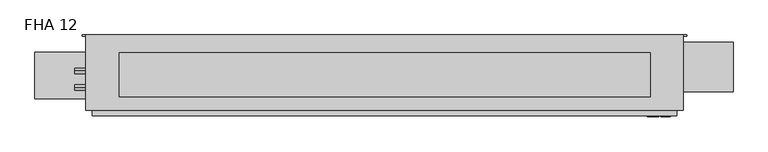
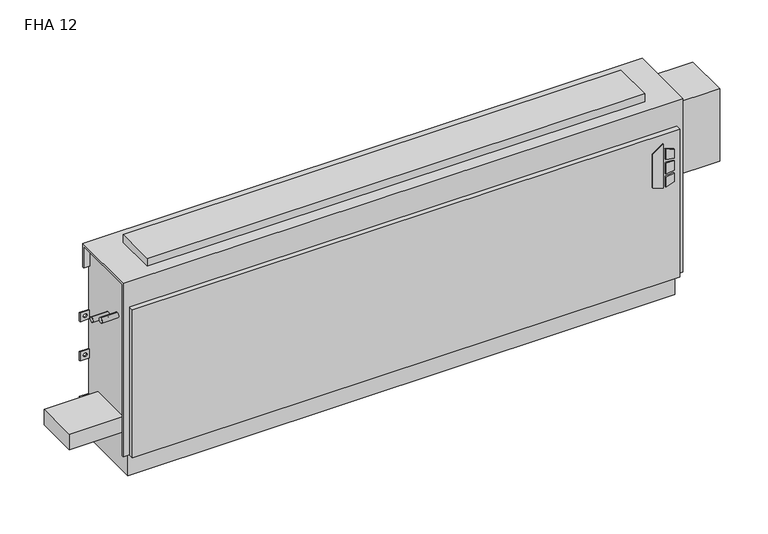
"""IFC4 building model written with IfcOpenShell, lengths in millimetres: proxy geometry, Vertical_Fan_Coil_Unit_-_FHA_-_IEC_-_2-Pipe_TS-FR_LH_2022 : FHA 12."""

from ifc_helpers import new_model, si_unit, point, frame, frame_2d, origin, place, context, project, spatial, polyline, circle_curve, trimmed, segment, composite_curve, outline, extrude, source, transform, mapped, element, save
from ifc_brep_helpers import plane_surface, revolved_surface, advanced_brep


def fha_12_0b8164c2(model_context):
    return source(origin(), model_context, "Body", "SolidModel", [
        extrude(outline(polyline([(391.6086829, 906.5368862), (381.6606126, 938.7102728), (523.831537, 938.7102728), (500.8095309, 906.5368862), (391.6086829, 906.5368862)])), frame((0.0, 9.525, 0.0), z_axis=(0.0, 1.0, 0.0), x_axis=(0.0, 0.0, 1.0)), (0.0, 0.0, 1.0), 3.175),
        extrude(outline(polyline([(470.6079683, 945.4686058), (467.4055757, 971.55), (496.6344168, 971.55), (504.6988318, 945.4686058), (470.6079683, 945.4686058)])), frame((0.0, 9.525, 0.0), z_axis=(0.0, 1.0, 0.0), x_axis=(0.0, 0.0, 1.0)), (0.0, 0.0, 1.0), 3.175),
        extrude(outline(polyline([(418.7444414, 971.55), (415.0789404, 945.4686058), (381.6606126, 945.4686058), (390.2948498, 971.55), (418.7444414, 971.55)])), frame((0.0, 9.525, 0.0), z_axis=(0.0, 1.0, 0.0), x_axis=(0.0, 0.0, 1.0)), (0.0, 0.0, 1.0), 3.175),
        extrude(outline(polyline([(458.0596028, 971.55), (460.3414292, 945.4686058), (424.4038806, 945.4686058), (427.1451456, 971.55), (458.0596028, 971.55)])), frame((0.0, 9.525, 0.0), z_axis=(0.0, 1.0, 0.0), x_axis=(0.0, 0.0, 1.0)), (0.0, 0.0, 1.0), 3.175),
        extrude(outline(composite_curve([segment(trimmed(circle_curve(frame_2d((-749.3, 128.5875)), 9.525), [point((-758.825, 128.5875))], [point((-739.775, 128.5875))], False, "CARTESIAN"), True, "CONTINUOUS"), segment(trimmed(circle_curve(frame_2d((-749.3, 128.5875)), 9.525), [point((-739.775, 128.5875))], [point((-758.825, 128.5875))], False, "CARTESIAN"), True, "CONTINUOUS")], self_intersect=False)), frame((0.0, 0.0, 101.6), z_axis=(0.0, 0.0, 1.0), x_axis=(1.0, 0.0, 0.0)), (0.0, 0.0, 1.0), 25.4),
        extrude(outline(polyline([(-850.9, 61.9125), (-850.9, 195.2625), (-685.8, 195.2625), (-685.8, 61.9125), (-850.9, 61.9125)])), frame((0.0, 0.0, 127.0), z_axis=(0.0, 0.0, 1.0), x_axis=(1.0, 0.0, 0.0)), (0.0, 0.0, 1.0), 50.8),
        extrude(outline(polyline([(914.4, 193.675), (914.4, 66.675), (-609.6, 66.675), (-609.6, 193.675), (914.4, 193.675)])), frame((0.0, 0.0, 635.0), z_axis=(0.0, 0.0, 1.0), x_axis=(1.0, 0.0, 0.0)), (0.0, 0.0, 1.0), 25.4),
        extrude(outline(composite_curve([segment(trimmed(circle_curve(frame_2d((93.1926, 488.0102)), 7.9375), [point((93.1926, 495.9477))], [point((93.1926, 480.0727))], False, "CARTESIAN"), True, "CONTINUOUS"), segment(trimmed(circle_curve(frame_2d((93.1926, 488.0102)), 7.9375), [point((93.1926, 480.0727))], [point((93.1926, 495.9477))], False, "CARTESIAN"), True, "CONTINUOUS")], self_intersect=False)), frame((-736.6, 0.0, 0.0), z_axis=(1.0, 0.0, 0.0), x_axis=(0.0, 1.0, 0.0)), (0.0, 0.0, 1.0), 50.8),
        extrude(outline(composite_curve([segment(trimmed(circle_curve(frame_2d((141.3002, 461.3402)), 7.9375), [point((141.3002, 469.2777))], [point((141.3002, 453.4027))], False, "CARTESIAN"), True, "CONTINUOUS"), segment(trimmed(circle_curve(frame_2d((141.3002, 461.3402)), 7.9375), [point((141.3002, 453.4027))], [point((141.3002, 469.2777))], False, "CARTESIAN"), True, "CONTINUOUS")], self_intersect=False)), frame((-736.6, 0.0, 0.0), z_axis=(1.0, 0.0, 0.0), x_axis=(0.0, 1.0, 0.0)), (0.0, 0.0, 1.0), 50.8),
        extrude(outline(polyline([(1152.525, 223.266), (1152.525, 81.534), (990.6, 81.534), (990.6, 223.266), (1152.525, 223.266)])), frame((0.0, 0.0, 349.25), z_axis=(0.0, 0.0, 1.0), x_axis=(1.0, 0.0, 0.0)), (0.0, 0.0, 1.0), 234.95),
        advanced_brep(
        [(1009.65, 244.475, 635.0), (-704.85, 244.475, 635.0), (-704.85, 28.575, 635.0), (1009.65, 28.575, 635.0), (-685.8, 244.475, 0.0), (990.6, 244.475, 0.0), (990.6, 38.1, 0.0), (-685.8, 38.1, 0.0), (1009.65, 244.475, 558.8), (990.6, 244.475, 558.8), (990.6, 244.475, 414.3375), (1019.175, 244.475, 414.3375), (1019.175, 244.475, 385.7625), (990.6, 244.475, 385.7625), (990.6, 244.475, 287.3375), (1019.175, 244.475, 287.3375), (1019.175, 244.475, 258.7625), (990.6, 244.475, 258.7625), (990.6, 244.475, 141.2875), (1019.175, 244.475, 141.2875), (1019.175, 244.475, 112.7125), (990.6, 244.475, 112.7125), (-685.8, 244.475, 112.7125), (-714.375, 244.475, 112.7125), (-714.375, 244.475, 141.2875), (-685.8, 244.475, 141.2875), (-685.8, 244.475, 258.7625), (-714.375, 244.475, 258.7625), (-714.375, 244.475, 287.3375), (-685.8, 244.475, 287.3375), (-685.8, 244.475, 385.7625), (-714.375, 244.475, 385.7625), (-714.375, 244.475, 414.3375), (-685.8, 244.475, 414.3375), (-685.8, 244.475, 558.8), (-704.85, 244.475, 558.8), (1008.8626, 244.475, 127.0), (997.7374, 244.475, 127.0), (-692.9374, 244.475, 127.0), (-704.0626, 244.475, 127.0), (1008.8626, 244.475, 273.05), (997.7374, 244.475, 273.05), (-692.9374, 244.475, 273.05), (-704.0626, 244.475, 273.05), (1008.8626, 244.475, 400.05), (997.7374, 244.475, 400.05), (-692.9374, 244.475, 400.05), (-704.0626, 244.475, 400.05), (-704.85, 238.125, 558.8), (-704.85, 238.125, 628.65), (-704.85, 34.925, 628.65), (-704.85, 34.925, 73.025), (-704.85, 28.575, 73.025), (990.6, 12.7, 552.45), (-685.8, 12.7, 552.45), (-685.8, 12.7, 73.025), (990.6, 12.7, 73.025), (1009.65, 28.575, 73.025), (1009.65, 34.925, 73.025), (1009.65, 34.925, 628.65), (1009.65, 238.125, 628.65), (1009.65, 238.125, 558.8), (-685.8, 28.575, 73.025), (-685.8, 28.575, 552.45), (990.6, 28.575, 552.45), (990.6, 28.575, 73.025), (-685.8, 34.925, 73.025), (-685.8, 38.1, 73.025), (990.6, 38.1, 73.025), (990.6, 34.925, 73.025), (990.6, 241.3, 112.7125), (990.6, 241.3, 141.2875), (990.6, 241.3, 258.7625), (990.6, 241.3, 287.3375), (990.6, 241.3, 385.7625), (990.6, 241.3, 414.3375), (990.6, 238.125, 558.8), (990.6, 238.125, 628.65), (990.6, 34.925, 628.65), (-685.8, 34.925, 628.65), (-685.8, 238.125, 628.65), (-685.8, 238.125, 558.8), (-685.8, 241.3, 414.3375), (-685.8, 241.3, 385.7625), (-685.8, 241.3, 287.3375), (-685.8, 241.3, 258.7625), (-685.8, 241.3, 141.2875), (-685.8, 241.3, 112.7125), (1019.175, 241.3, 112.7125), (1019.175, 241.3, 141.2875), (997.7374, 241.3, 127.0), (1008.8626, 241.3, 127.0), (1019.175, 241.3, 258.7625), (1019.175, 241.3, 287.3375), (997.7374, 241.3, 273.05), (1008.8626, 241.3, 273.05), (1019.175, 241.3, 385.7625), (1019.175, 241.3, 414.3375), (997.7374, 241.3, 400.05), (1008.8626, 241.3, 400.05), (-714.375, 241.3, 141.2875), (-714.375, 241.3, 112.7125), (-704.0626, 241.3, 127.0), (-692.9374, 241.3, 127.0), (-714.375, 241.3, 287.3375), (-714.375, 241.3, 258.7625), (-704.0626, 241.3, 273.05), (-692.9374, 241.3, 273.05), (-714.375, 241.3, 414.3375), (-714.375, 241.3, 385.7625), (-704.0626, 241.3, 400.05), (-692.9374, 241.3, 400.05)],
        [
            (0, 1),
            (1, 2),
            (2, 3),
            (3, 0),
            (4, 5),
            (5, 6),
            (6, 7),
            (7, 4),
            (0, 8),
            (8, 9),
            (9, 10),
            (10, 11),
            (11, 12),
            (12, 13),
            (13, 14),
            (14, 15),
            (15, 16),
            (16, 17),
            (17, 18),
            (18, 19),
            (19, 20),
            (20, 21),
            (21, 5),
            (4, 22),
            (22, 23),
            (23, 24),
            (24, 25),
            (25, 26),
            (26, 27),
            (27, 28),
            (28, 29),
            (29, 30),
            (30, 31),
            (31, 32),
            (32, 33),
            (33, 34),
            (34, 35),
            (35, 1),
            (36, 37, circle_curve(frame((1003.3, 244.475, 127.0), z_axis=(0.0, -1.0, 0.0), x_axis=(-1.0, 0.0, 0.0)), 5.5626)),
            (37, 36, circle_curve(frame((1003.3, 244.475, 127.0), z_axis=(0.0, -1.0, 0.0), x_axis=(-1.0, 0.0, 0.0)), 5.5626)),
            (38, 39, circle_curve(frame((-698.5, 244.475, 127.0), z_axis=(0.0, -1.0, 0.0), x_axis=(-1.0, 0.0, 0.0)), 5.5626)),
            (39, 38, circle_curve(frame((-698.5, 244.475, 127.0), z_axis=(0.0, -1.0, 0.0), x_axis=(-1.0, 0.0, 0.0)), 5.5626)),
            (40, 41, circle_curve(frame((1003.3, 244.475, 273.05), z_axis=(0.0, -1.0, 0.0), x_axis=(-1.0, 0.0, 0.0)), 5.5626)),
            (41, 40, circle_curve(frame((1003.3, 244.475, 273.05), z_axis=(0.0, -1.0, 0.0), x_axis=(-1.0, 0.0, 0.0)), 5.5626)),
            (42, 43, circle_curve(frame((-698.5, 244.475, 273.05), z_axis=(0.0, -1.0, 0.0), x_axis=(-1.0, 0.0, 0.0)), 5.5626)),
            (43, 42, circle_curve(frame((-698.5, 244.475, 273.05), z_axis=(0.0, -1.0, 0.0), x_axis=(-1.0, 0.0, 0.0)), 5.5626)),
            (44, 45, circle_curve(frame((1003.3, 244.475, 400.05), z_axis=(0.0, -1.0, 0.0), x_axis=(-1.0, 0.0, 0.0)), 5.5626)),
            (45, 44, circle_curve(frame((1003.3, 244.475, 400.05), z_axis=(0.0, -1.0, 0.0), x_axis=(-1.0, 0.0, 0.0)), 5.5626)),
            (46, 47, circle_curve(frame((-698.5, 244.475, 400.05), z_axis=(0.0, -1.0, 0.0), x_axis=(-1.0, 0.0, 0.0)), 5.5626)),
            (47, 46, circle_curve(frame((-698.5, 244.475, 400.05), z_axis=(0.0, -1.0, 0.0), x_axis=(-1.0, 0.0, 0.0)), 5.5626)),
            (35, 48),
            (48, 49),
            (49, 50),
            (50, 51),
            (51, 52),
            (52, 2),
            (53, 54),
            (54, 55),
            (55, 56),
            (56, 53),
            (3, 57),
            (57, 58),
            (58, 59),
            (59, 60),
            (60, 61),
            (61, 8),
            (52, 62),
            (62, 63),
            (63, 64),
            (64, 65),
            (65, 57),
            (53, 64),
            (63, 54),
            (55, 62),
            (51, 66),
            (66, 67),
            (67, 68),
            (68, 69),
            (69, 58),
            (65, 56),
            (6, 68),
            (67, 7),
            (21, 70),
            (70, 71),
            (71, 18),
            (17, 72),
            (72, 73),
            (73, 14),
            (13, 74),
            (74, 75),
            (75, 10),
            (9, 76),
            (76, 77),
            (77, 78),
            (78, 69),
            (66, 79),
            (79, 80),
            (80, 81),
            (81, 34),
            (33, 82),
            (82, 83),
            (83, 30),
            (29, 84),
            (84, 85),
            (85, 26),
            (25, 86),
            (86, 87),
            (87, 22),
            (76, 61),
            (60, 77),
            (78, 59),
            (50, 79),
            (81, 48),
            (80, 49),
            (70, 88),
            (88, 89),
            (89, 71),
            (90, 91, circle_curve(frame((1003.3, 241.3, 127.0), z_axis=(0.0, 1.0, 0.0), x_axis=(-1.0, 0.0, 0.0)), 5.5626)),
            (91, 90, circle_curve(frame((1003.3, 241.3, 127.0), z_axis=(0.0, 1.0, 0.0), x_axis=(-1.0, 0.0, 0.0)), 5.5626)),
            (92, 93),
            (93, 73),
            (72, 92),
            (94, 95, circle_curve(frame((1003.3, 241.3, 273.05), z_axis=(0.0, 1.0, 0.0), x_axis=(-1.0, 0.0, 0.0)), 5.5626)),
            (95, 94, circle_curve(frame((1003.3, 241.3, 273.05), z_axis=(0.0, 1.0, 0.0), x_axis=(-1.0, 0.0, 0.0)), 5.5626)),
            (96, 97),
            (97, 75),
            (74, 96),
            (98, 99, circle_curve(frame((1003.3, 241.3, 400.05), z_axis=(0.0, 1.0, 0.0), x_axis=(-1.0, 0.0, 0.0)), 5.5626)),
            (99, 98, circle_curve(frame((1003.3, 241.3, 400.05), z_axis=(0.0, 1.0, 0.0), x_axis=(-1.0, 0.0, 0.0)), 5.5626)),
            (100, 101),
            (101, 87),
            (86, 100),
            (102, 103, circle_curve(frame((-698.5, 241.3, 127.0), z_axis=(0.0, 1.0, 0.0), x_axis=(-1.0, 0.0, 0.0)), 5.5626)),
            (103, 102, circle_curve(frame((-698.5, 241.3, 127.0), z_axis=(0.0, 1.0, 0.0), x_axis=(-1.0, 0.0, 0.0)), 5.5626)),
            (84, 104),
            (104, 105),
            (105, 85),
            (106, 107, circle_curve(frame((-698.5, 241.3, 273.05), z_axis=(0.0, 1.0, 0.0), x_axis=(-1.0, 0.0, 0.0)), 5.5626)),
            (107, 106, circle_curve(frame((-698.5, 241.3, 273.05), z_axis=(0.0, 1.0, 0.0), x_axis=(-1.0, 0.0, 0.0)), 5.5626)),
            (108, 109),
            (109, 83),
            (82, 108),
            (110, 111, circle_curve(frame((-698.5, 241.3, 400.05), z_axis=(0.0, 1.0, 0.0), x_axis=(-1.0, 0.0, 0.0)), 5.5626)),
            (111, 110, circle_curve(frame((-698.5, 241.3, 400.05), z_axis=(0.0, 1.0, 0.0), x_axis=(-1.0, 0.0, 0.0)), 5.5626)),
            (89, 19),
            (88, 20),
            (16, 92),
            (93, 15),
            (12, 96),
            (97, 11),
            (24, 100),
            (101, 23),
            (105, 27),
            (104, 28),
            (32, 108),
            (109, 31),
            (90, 37),
            (36, 91),
            (102, 39),
            (38, 103),
            (94, 41),
            (40, 95),
            (106, 43),
            (42, 107),
            (98, 45),
            (44, 99),
            (110, 47),
            (46, 111),
        ],
        [
            plane_surface(frame((-704.85, 244.475, 635.0), z_axis=(0.0, 0.0, 1.0), x_axis=(-1.0, 0.0, 0.0))),
            plane_surface(frame((-704.85, 244.475, 0.0), z_axis=(0.0, 0.0, -1.0), x_axis=(1.0, 0.0, 0.0))),
            plane_surface(frame((1009.65, 244.475, 635.0), z_axis=(0.0, 1.0, 0.0), x_axis=(0.0, 0.0, -1.0))),
            plane_surface(frame((-704.85, 244.475, 635.0), z_axis=(-1.0, 0.0, 0.0), x_axis=(0.0, 0.0, -1.0))),
            plane_surface(frame((-704.85, 12.7, 635.0), z_axis=(0.0, -1.0, 0.0), x_axis=(0.0, 0.0, -1.0))),
            plane_surface(frame((1009.65, 12.7, 635.0), z_axis=(1.0, 0.0, 0.0), x_axis=(0.0, 0.0, -1.0))),
            plane_surface(frame((-1263.65, 28.575, 635.0), z_axis=(0.0, -1.0, 0.0), x_axis=(1.0, 0.0, 0.0))),
            plane_surface(frame((-1263.65, 28.575, 552.45), z_axis=(0.0, 0.0, 1.0), x_axis=(1.0, 0.0, 0.0))),
            plane_surface(frame((-704.85, 12.7, 73.025), z_axis=(0.0, 0.0, -1.0), x_axis=(1.0, 0.0, 0.0))),
            plane_surface(frame((-704.85, 38.1, 73.025), z_axis=(0.0, -1.0, 0.0), x_axis=(1.0, 0.0, 0.0))),
            plane_surface(frame((990.6, 28.575, 73.025), z_axis=(1.0, 0.0, 0.0), x_axis=(0.0, -1.0, 0.0))),
            plane_surface(frame((-685.8, 28.575, 552.45), z_axis=(-1.0, 0.0, 0.0), x_axis=(0.0, -1.0, 0.0))),
            plane_surface(frame((990.6, 244.475, 0.0), z_axis=(1.0, 0.0, 0.0), x_axis=(0.0, -1.0, 0.0))),
            plane_surface(frame((-685.8, 244.475, 73.025), z_axis=(-1.0, 0.0, 0.0), x_axis=(0.0, -1.0, 0.0))),
            plane_surface(frame((990.6, 238.125, 628.65), z_axis=(0.0, -1.0, 0.0), x_axis=(1.0, 0.0, 0.0))),
            plane_surface(frame((990.6, 238.125, 558.8), z_axis=(0.0, 0.0, -1.0), x_axis=(1.0, 0.0, 0.0))),
            plane_surface(frame((990.6, 34.925, 73.025), z_axis=(0.0, 1.0, 0.0), x_axis=(1.0, 0.0, 0.0))),
            plane_surface(frame((990.6, 34.925, 628.65), z_axis=(0.0, 0.0, -1.0), x_axis=(1.0, 0.0, 0.0))),
            plane_surface(frame((-685.8, 34.925, 628.65), z_axis=(0.0, 1.0, 0.0), x_axis=(-1.0, 0.0, 0.0))),
            plane_surface(frame((-685.8, 244.475, 558.8), z_axis=(0.0, 0.0, -1.0), x_axis=(-1.0, 0.0, 0.0))),
            plane_surface(frame((-685.8, 238.125, 558.8), z_axis=(0.0, -1.0, 0.0), x_axis=(-1.0, 0.0, 0.0))),
            plane_surface(frame((-685.8, 238.125, 628.65), z_axis=(0.0, 0.0, -1.0), x_axis=(-1.0, 0.0, 0.0))),
            plane_surface(frame((1019.175, 241.3, 141.2875), z_axis=(0.0, -1.0, 0.0), x_axis=(-1.0, 0.0, 0.0))),
            plane_surface(frame((990.6, 244.475, 141.2875), z_axis=(0.0, 0.0, 1.0), x_axis=(0.0, -1.0, 0.0))),
            plane_surface(frame((1019.175, 244.475, 141.2875), z_axis=(1.0, 0.0, 0.0), x_axis=(0.0, -1.0, 0.0))),
            plane_surface(frame((1019.175, 244.475, 112.7125), z_axis=(0.0, 0.0, -1.0), x_axis=(0.0, -1.0, 0.0))),
            plane_surface(frame((1019.175, 244.475, 258.7625), z_axis=(0.0, 0.0, -1.0), x_axis=(0.0, -1.0, 0.0))),
            plane_surface(frame((990.6, 244.475, 287.3375), z_axis=(0.0, 0.0, 1.0), x_axis=(0.0, -1.0, 0.0))),
            plane_surface(frame((1019.175, 244.475, 287.3375), z_axis=(1.0, 0.0, 0.0), x_axis=(0.0, -1.0, 0.0))),
            plane_surface(frame((1019.175, 244.475, 385.7625), z_axis=(0.0, 0.0, -1.0), x_axis=(0.0, -1.0, 0.0))),
            plane_surface(frame((990.6, 244.475, 414.3375), z_axis=(0.0, 0.0, 1.0), x_axis=(0.0, -1.0, 0.0))),
            plane_surface(frame((1019.175, 244.475, 414.3375), z_axis=(1.0, 0.0, 0.0), x_axis=(0.0, -1.0, 0.0))),
            plane_surface(frame((-714.375, 244.475, 141.2875), z_axis=(0.0, 0.0, 1.0), x_axis=(0.0, -1.0, 0.0))),
            plane_surface(frame((-685.8, 244.475, 112.7125), z_axis=(0.0, 0.0, -1.0), x_axis=(0.0, -1.0, 0.0))),
            plane_surface(frame((-714.375, 244.475, 112.7125), z_axis=(-1.0, 0.0, 0.0), x_axis=(0.0, -1.0, 0.0))),
            plane_surface(frame((-685.8, 244.475, 258.7625), z_axis=(0.0, 0.0, -1.0), x_axis=(0.0, -1.0, 0.0))),
            plane_surface(frame((-714.375, 244.475, 258.7625), z_axis=(-1.0, 0.0, 0.0), x_axis=(0.0, -1.0, 0.0))),
            plane_surface(frame((-714.375, 244.475, 287.3375), z_axis=(0.0, 0.0, 1.0), x_axis=(0.0, -1.0, 0.0))),
            plane_surface(frame((-714.375, 244.475, 414.3375), z_axis=(0.0, 0.0, 1.0), x_axis=(0.0, -1.0, 0.0))),
            plane_surface(frame((-685.8, 244.475, 385.7625), z_axis=(0.0, 0.0, -1.0), x_axis=(0.0, -1.0, 0.0))),
            plane_surface(frame((-714.375, 244.475, 385.7625), z_axis=(-1.0, 0.0, 0.0), x_axis=(0.0, -1.0, 0.0))),
            revolved_surface(polyline([(997.7374, 241.3, 127.0), (997.7374, 244.475, 127.0)]), (1003.3, 244.475, 127.0), (0.0, -1.0, 0.0)),
            revolved_surface(polyline([(-704.0626, 241.3, 127.0), (-704.0626, 244.475, 127.0)]), (-698.5, 244.475, 127.0), (0.0, -1.0, 0.0)),
            revolved_surface(polyline([(997.7374, 241.3, 273.05), (997.7374, 244.475, 273.05)]), (1003.3, 244.475, 273.05), (0.0, -1.0, 0.0)),
            revolved_surface(polyline([(-704.0626, 241.3, 273.05), (-704.0626, 244.475, 273.05)]), (-698.5, 244.475, 273.05), (0.0, -1.0, 0.0)),
            revolved_surface(polyline([(997.7374, 241.3, 400.05), (997.7374, 244.475, 400.05)]), (1003.3, 244.475, 400.05), (0.0, -1.0, 0.0)),
            revolved_surface(polyline([(-704.0626, 241.3, 400.05), (-704.0626, 244.475, 400.05)]), (-698.5, 244.475, 400.05), (0.0, -1.0, 0.0)),
        ],
        [
            (0, [[1, 2, 3, 4]]),
            (1, [[5, 6, 7, 8]]),
            (2, [[-1, 9, 10, 11, 12, 13, 14, 15, 16, 17, 18, 19, 20, 21, 22, 23, -5, 24, 25, 26, 27, 28, 29, 30, 31, 32, 33, 34, 35, 36, 37, 38], [39, 40], [41, 42], [43, 44], [45, 46], [47, 48], [49, 50]]),
            (3, [[-2, -38, 51, 52, 53, 54, 55, 56]]),
            (4, [[57, 58, 59, 60]]),
            (5, [[-4, 61, 62, 63, 64, 65, 66, -9]]),
            (6, [[-3, -56, 67, 68, 69, 70, 71, -61]]),
            (7, [[-57, 72, -69, 73]]),
            (8, [[-59, 74, -67, -55, 75, 76, 77, 78, 79, -62, -71, 80]]),
            (9, [[-7, 81, -77, 82]]),
            (10, [[-70, -72, -60, -80]]),
            (11, [[-68, -74, -58, -73]]),
            (12, [[-6, -23, 83, 84, 85, -19, 86, 87, 88, -15, 89, 90, 91, -11, 92, 93, 94, 95, -78, -81]]),
            (13, [[-8, -82, -76, 96, 97, 98, 99, -36, 100, 101, 102, -32, 103, 104, 105, -28, 106, 107, 108, -24]]),
            (14, [[-93, 109, -65, 110]]),
            (15, [[-92, -10, -66, -109]]),
            (16, [[-95, 111, -63, -79]]),
            (17, [[-94, -110, -64, -111]]),
            (18, [[-96, -75, -54, 112]]),
            (19, [[-99, 113, -51, -37]]),
            (20, [[-98, 114, -52, -113]]),
            (21, [[-97, -112, -53, -114]]),
            (22, [[115, 116, 117, -84], [118, 119]]),
            (22, [[120, 121, -87, 122], [123, 124]]),
            (22, [[125, 126, -90, 127], [128, 129]]),
            (22, [[130, 131, -107, 132], [133, 134]]),
            (22, [[135, 136, 137, -104], [138, 139]]),
            (22, [[140, 141, -101, 142], [143, 144]]),
            (23, [[-117, 145, -20, -85]]),
            (24, [[-116, 146, -21, -145]]),
            (25, [[-115, -83, -22, -146]]),
            (26, [[-122, -86, -18, 147]]),
            (27, [[-121, 148, -16, -88]]),
            (28, [[-120, -147, -17, -148]]),
            (29, [[-127, -89, -14, 149]]),
            (30, [[-126, 150, -12, -91]]),
            (31, [[-125, -149, -13, -150]]),
            (32, [[-132, -106, -27, 151]]),
            (33, [[-131, 152, -25, -108]]),
            (34, [[-130, -151, -26, -152]]),
            (35, [[-137, 153, -29, -105]]),
            (36, [[-136, 154, -30, -153]]),
            (37, [[-135, -103, -31, -154]]),
            (38, [[-142, -100, -35, 155]]),
            (39, [[-141, 156, -33, -102]]),
            (40, [[-140, -155, -34, -156]]),
            (41, [[157, -39, 158, -118]]),
            (41, [[-157, -119, -158, -40]]),
            (42, [[159, -41, 160, -133]]),
            (42, [[-159, -134, -160, -42]]),
            (43, [[161, -43, 162, -123]]),
            (43, [[-161, -124, -162, -44]]),
            (44, [[163, -45, 164, -138]]),
            (44, [[-163, -139, -164, -46]]),
            (45, [[165, -47, 166, -128]]),
            (45, [[-165, -129, -166, -48]]),
            (46, [[167, -49, 168, -143]]),
            (46, [[-167, -144, -168, -50]]),
        ],
    ),
    ])


if __name__ == "__main__":
    model = new_model("IFC4")
    model_context = context("Model", 3, world=origin())
    ifc_project = project(units=[si_unit("LENGTHUNIT", "METRE", prefix="MILLI")], contexts=[model_context])
    site = spatial("IfcSite", under=ifc_project)
    building = spatial("IfcBuilding", under=site)
    placement = place(None, origin())
    fha_12_shape = fha_12_0b8164c2(model_context)
    element("IfcBuildingElementProxy", 1, Name="Vertical_Fan_Coil_Unit_-_FHA_-_IEC_-_2-Pipe_TS-FR_LH_2022 : FHA 12", ObjectType="Vertical_Fan_Coil_Unit_-_FHA_-_IEC_-_2-Pipe_TS-FR_LH_2022 : FHA 12", at=placement, inside=building, context=model_context, shape_type="MappedRepresentation", body=[
        mapped(fha_12_shape, transform((0.0, 0.0, 0.0), x_axis=(1.0, 0.0, 0.0), y_axis=(0.0, 1.0, 0.0), z_axis=(0.0, 0.0, 1.0))),
    ])
    save(model, "model.ifc")
